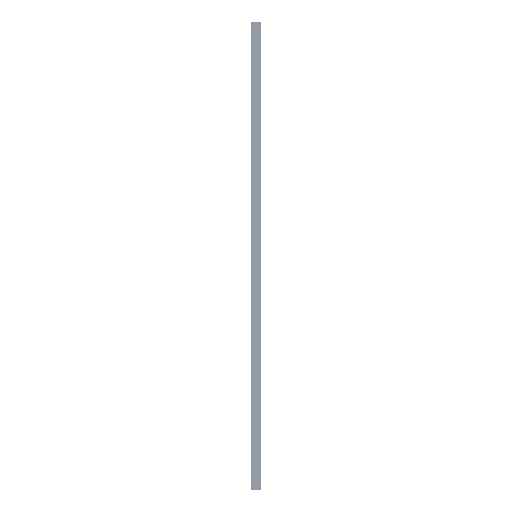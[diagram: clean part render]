
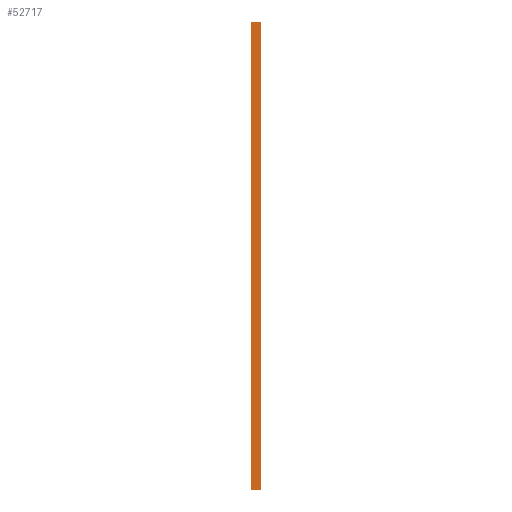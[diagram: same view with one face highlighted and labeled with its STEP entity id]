
A CAD part, left-side view. The second image highlights one B-rep face of the part: STEP entity #52717.
In plain terms, the highlighted planar face has unit normal (-1, 0, 0).
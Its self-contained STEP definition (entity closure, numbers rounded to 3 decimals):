
#624 = EDGE_CURVE ( 'NONE', #10245, #45210, #7388, .T. ) ;
#4541 = DIRECTION ( 'NONE',  ( 1., 0., 0. ) ) ;
#5361 = CARTESIAN_POINT ( 'NONE',  ( -450., 13., 300. ) ) ;
#7090 = LINE ( 'NONE', #38029, #61586 ) ;
#7388 = LINE ( 'NONE', #23670, #60068 ) ;
#10245 = VERTEX_POINT ( 'NONE', #28465 ) ;
#12681 = EDGE_CURVE ( 'NONE', #38771, #39597, #7090, .T. ) ;
#13321 = LINE ( 'NONE', #57578, #62282 ) ;
#13937 = ORIENTED_EDGE ( 'NONE', *, *, #26957, .T. ) ;
#21935 = LINE ( 'NONE', #5361, #33572 ) ;
#23378 = ORIENTED_EDGE ( 'NONE', *, *, #624, .T. ) ;
#23670 = CARTESIAN_POINT ( 'NONE',  ( -450., 0., -300. ) ) ;
#26957 = EDGE_CURVE ( 'NONE', #38771, #10245, #13321, .T. ) ;
#27643 = DIRECTION ( 'NONE',  ( 0., -1., 0. ) ) ;
#28465 = CARTESIAN_POINT ( 'NONE',  ( -450., 0., -300. ) ) ;
#30467 = FACE_OUTER_BOUND ( 'NONE', #43889, .T. ) ;
#33015 = CARTESIAN_POINT ( 'NONE',  ( -450., 13., -300. ) ) ;
#33382 = DIRECTION ( 'NONE',  ( 0., 0., 1. ) ) ;
#33526 = EDGE_CURVE ( 'NONE', #39597, #45210, #21935, .T. ) ;
#33572 = VECTOR ( 'NONE', #61557, 1000. ) ;
#38029 = CARTESIAN_POINT ( 'NONE',  ( -450., 13., -300. ) ) ;
#38273 = ORIENTED_EDGE ( 'NONE', *, *, #33526, .F. ) ;
#38771 = VERTEX_POINT ( 'NONE', #33015 ) ;
#39597 = VERTEX_POINT ( 'NONE', #59596 ) ;
#41510 = AXIS2_PLACEMENT_3D ( 'NONE', #55098, #4541, #45126 ) ;
#43889 = EDGE_LOOP ( 'NONE', ( #23378, #38273, #62555, #13937 ) ) ;
#45126 = DIRECTION ( 'NONE',  ( 0., 0., -1. ) ) ;
#45210 = VERTEX_POINT ( 'NONE', #48373 ) ;
#48373 = CARTESIAN_POINT ( 'NONE',  ( -450., 0., 300. ) ) ;
#52717 = ADVANCED_FACE ( 'NONE', ( #30467 ), #54460, .F. ) ;
#54460 = PLANE ( 'NONE',  #41510 ) ;
#55098 = CARTESIAN_POINT ( 'NONE',  ( -450., 13., -300. ) ) ;
#57578 = CARTESIAN_POINT ( 'NONE',  ( -450., 13., -300. ) ) ;
#59596 = CARTESIAN_POINT ( 'NONE',  ( -450., 13., 300. ) ) ;
#60068 = VECTOR ( 'NONE', #63257, 1000. ) ;
#61557 = DIRECTION ( 'NONE',  ( 0., -1., 0. ) ) ;
#61586 = VECTOR ( 'NONE', #33382, 1000. ) ;
#62282 = VECTOR ( 'NONE', #27643, 1000. ) ;
#62555 = ORIENTED_EDGE ( 'NONE', *, *, #12681, .F. ) ;
#63257 = DIRECTION ( 'NONE',  ( 0., 0., 1. ) ) ;
